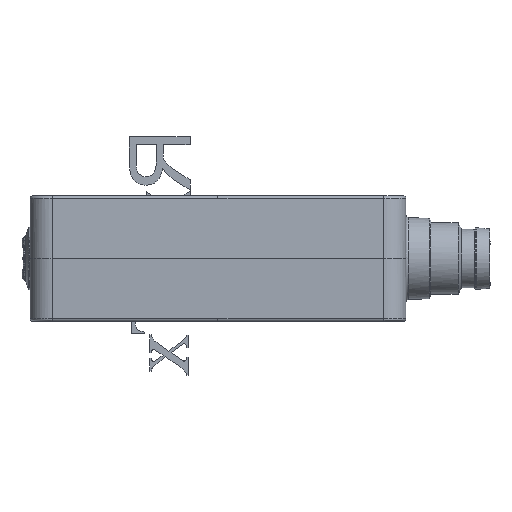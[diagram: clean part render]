
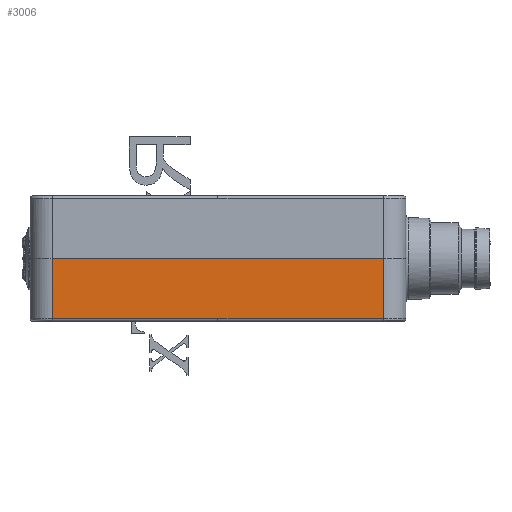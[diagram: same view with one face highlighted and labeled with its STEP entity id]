
A CAD part, left-side view. The second image highlights one B-rep face of the part: STEP entity #3006.
In plain terms, the highlighted free-form (B-spline) face has degree [1, 1] with [2, 2] control points.
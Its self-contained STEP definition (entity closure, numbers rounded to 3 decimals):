
#3006=ADVANCED_FACE('',(#3687),#3420,.T.);
#3420=B_SPLINE_SURFACE_WITH_KNOTS('',1,1,((#16104,#16105),(#16106,#16107)),
 .UNSPECIFIED.,.F.,.F.,.F.,(2,2),(2,2),(0.,1.),(0.,1.),.UNSPECIFIED.);
#3687=FACE_OUTER_BOUND('',#4213,.T.);
#4213=EDGE_LOOP('',(#5702,#5703,#5704,#5705,#5706));
#5702=ORIENTED_EDGE('',*,*,#8173,.T.);
#5703=ORIENTED_EDGE('',*,*,#8145,.T.);
#5704=ORIENTED_EDGE('',*,*,#8301,.F.);
#5705=ORIENTED_EDGE('',*,*,#8302,.F.);
#5706=ORIENTED_EDGE('',*,*,#8176,.T.);
#7248=VERTEX_POINT('',#14533);
#7249=VERTEX_POINT('',#14536);
#7267=VERTEX_POINT('',#14957);
#7269=VERTEX_POINT('',#14972);
#7335=VERTEX_POINT('',#16101);
#8145=EDGE_CURVE('',#7249,#7248,#9235,.T.);
#8173=EDGE_CURVE('',#7267,#7249,#9252,.T.);
#8176=EDGE_CURVE('',#7269,#7267,#9254,.T.);
#8301=EDGE_CURVE('',#7335,#7248,#9325,.T.);
#8302=EDGE_CURVE('',#7269,#7335,#9326,.T.);
#9235=B_SPLINE_CURVE_WITH_KNOTS('',1,(#14534,#14535),.UNSPECIFIED.,.F.,
 .F.,(2,2),(0.,1.),.UNSPECIFIED.);
#9252=B_SPLINE_CURVE_WITH_KNOTS('',1,(#14955,#14956),.UNSPECIFIED.,.F.,
 .F.,(2,2),(0.,1.),.UNSPECIFIED.);
#9254=B_SPLINE_CURVE_WITH_KNOTS('',1,(#14970,#14971),.UNSPECIFIED.,.F.,
 .F.,(2,2),(0.,1.),.UNSPECIFIED.);
#9325=B_SPLINE_CURVE_WITH_KNOTS('',1,(#16099,#16100),.UNSPECIFIED.,.F.,
 .F.,(2,2),(0.,1.),.UNSPECIFIED.);
#9326=B_SPLINE_CURVE_WITH_KNOTS('',1,(#16102,#16103),.UNSPECIFIED.,.F.,
 .F.,(2,2),(0.,1.),.UNSPECIFIED.);
#14533=CARTESIAN_POINT('',(-31.794,38.477,-0.29));
#14534=CARTESIAN_POINT('',(-31.677,38.477,-6.995));
#14535=CARTESIAN_POINT('',(-31.794,38.477,-0.29));
#14536=CARTESIAN_POINT('',(-31.677,38.477,-6.995));
#14955=CARTESIAN_POINT('',(-31.677,56.977,-6.995));
#14956=CARTESIAN_POINT('',(-31.677,38.477,-6.995));
#14957=CARTESIAN_POINT('',(-31.677,56.977,-6.995));
#14970=CARTESIAN_POINT('',(-31.677,75.477,-6.995));
#14971=CARTESIAN_POINT('',(-31.677,56.977,-6.995));
#14972=CARTESIAN_POINT('',(-31.677,75.477,-6.995));
#16099=CARTESIAN_POINT('',(-31.794,75.477,-0.29));
#16100=CARTESIAN_POINT('',(-31.794,38.477,-0.29));
#16101=CARTESIAN_POINT('',(-31.794,75.477,-0.29));
#16102=CARTESIAN_POINT('',(-31.677,75.477,-6.995));
#16103=CARTESIAN_POINT('',(-31.794,75.477,-0.29));
#16104=CARTESIAN_POINT('',(-31.666,35.977,-7.64));
#16105=CARTESIAN_POINT('',(-31.666,79.177,-7.64));
#16106=CARTESIAN_POINT('',(-31.794,35.977,-0.29));
#16107=CARTESIAN_POINT('',(-31.794,79.177,-0.29));
